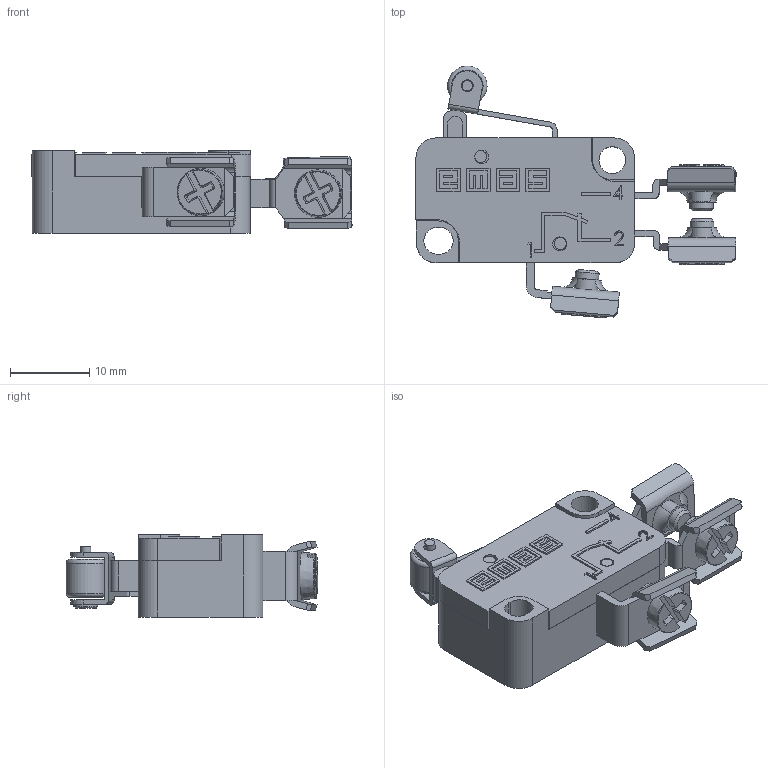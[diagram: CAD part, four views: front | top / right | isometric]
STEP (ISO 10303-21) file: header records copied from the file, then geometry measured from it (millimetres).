
FILE_DESCRIPTION((''),'2; 1');
FILE_NAME('','2026-03-27T16:20:54',(''),(''),'CST STEP Exporter V1.0','Unknown','');
FILE_SCHEMA(('CONFIG_CONTROL_DESIGN'));
Length unit declared in the file: metre
Assembly tree (21 placements, depth 2):
  (unnamed)
    (unnamed)
    (unnamed)
    (unnamed)
    (unnamed)
    (unnamed)
    (unnamed)
    (unnamed)
    (unnamed)
    (unnamed)
    (unnamed)
    (unnamed)
    (unnamed)
    (unnamed)
    (unnamed)
    (unnamed)
    (unnamed)
    (unnamed)
    (unnamed)
    (unnamed)
    (unnamed)
    (unnamed)
Bounding box: 40.5 x 31.87 x 10.4 mm (x, y, z)
Surface area: 9176.5 mm2 (no closed solid volume)
Topology: 0 solids, 23 shells, 452 faces, 1487 edges, 1063 vertices
Faces by surface type: plane 336, cylinder 87, torus 14, cone 9, extrusion 6
Full cylindrical faces by diameter (mm): 1.3 x1, 1.5 x3, 1.75 x2, 3 x4, 3.4 x1, 5 x1
Entity records: 19519 total; most frequent: CARTESIAN_POINT 3281, DIRECTION 2626, ORIENTED_EDGE 2534, EDGE_CURVE 1458, VECTOR 1086, LINE 1080, VERTEX_POINT 1057, AXIS2_PLACEMENT_3D 770
